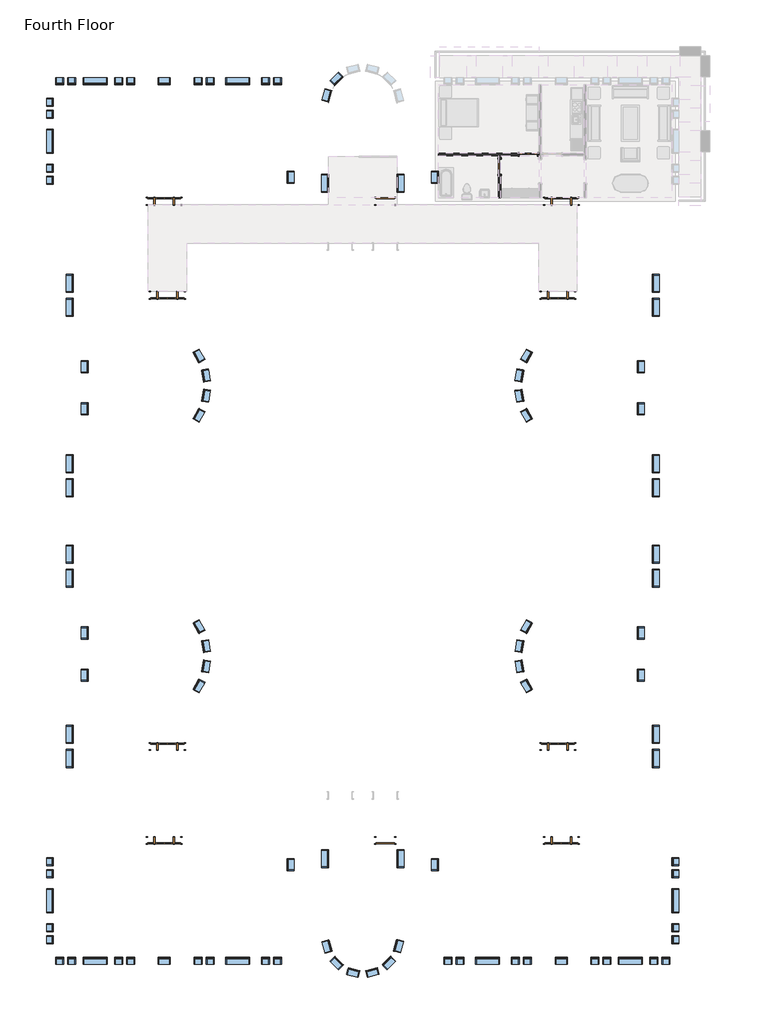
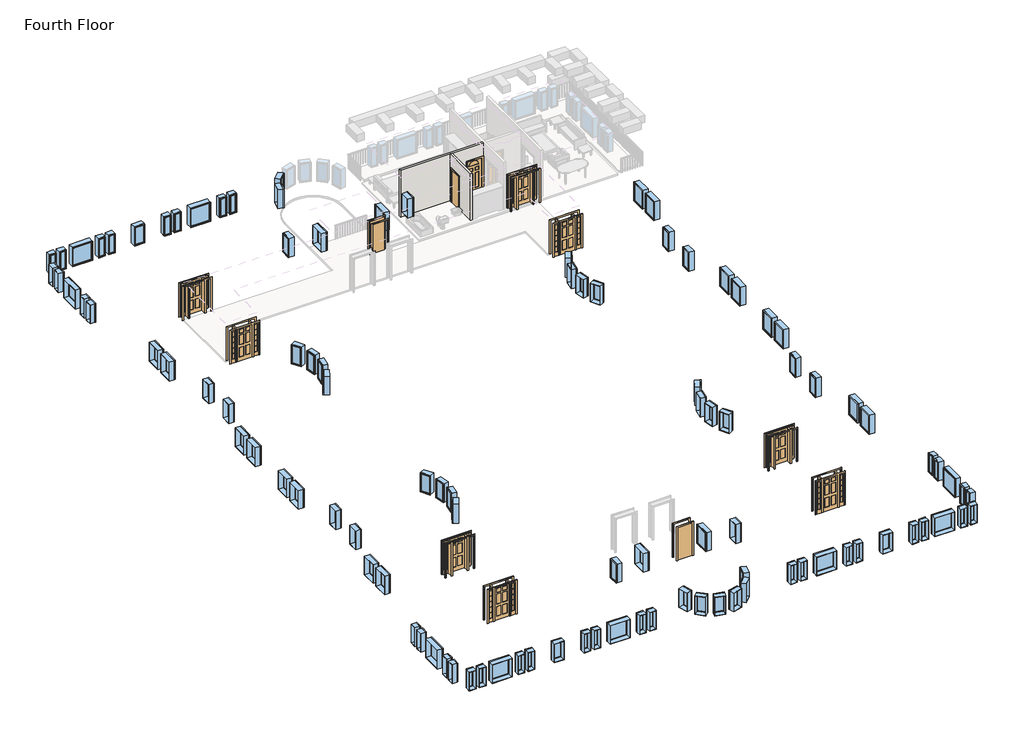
# One storey, part 1 of 2: 104 windows, 12 doors, 2 walls.
"""IFC4 building model written with IfcOpenShell, lengths in millimetres."""

from ifc_helpers import new_model, si_unit, frame, origin, place, context, project, spatial, polyline, outline, extrude, faceted_brep, transform, mapped, element, save
from components import door_2e3b4da2, door_4d6c7550, door_632be17d, door_cc5399a4, door_dba5aa2e, door_ffdb1193, window_da97879f, window_d61ef850, window_60baf983, window_ed80354a, window_15c49d37, window_0e2fc6ce, window_6eb97611, window_d89bf842

model = new_model("IFC4")

# Units and contexts
model_context = context("Model", 3, world=origin())
ifc_project = project(units=[si_unit("LENGTHUNIT", "METRE", prefix="MILLI")], contexts=[model_context])

# Site, building, storey
site = spatial("IfcSite", under=ifc_project)
building = spatial("IfcBuilding", under=site)
storey = spatial("IfcBuildingStorey", under=building, Name="Fourth Floor", Elevation=9144.0)

# Doors
placement = place(None, origin())
door_shape = door_2e3b4da2(model_context)
element("IfcDoor", 1, ObjectType="Single-Decorative 2 : 36\" x 84\"", at=placement, inside=storey, context=model_context, shape_type="MappedRepresentation", body=[
    mapped(door_shape, transform((-6669.0589563, 6723.5441867, 9144.0), x_axis=(1.0, 0.0, 0.0), y_axis=(0.0, 1.0, 0.0), z_axis=(0.0, 0.0, 1.0))),
])
door_2_shape = door_4d6c7550(model_context)
element("IfcDoor", 2, ObjectType="Single-Flush : 30\" x 84\"", at=placement, inside=storey, context=model_context, shape_type="MappedRepresentation", body=[
    mapped(door_2_shape, transform((-8105.7464563, 6113.9441867, 9144.0), x_axis=(0.0, 1.0, 0.0), y_axis=(-1.0, 0.0, 0.0), z_axis=(0.0, 0.0, 1.0))),
])
door_3_shape = door_632be17d(model_context)
element("IfcDoor", 3, ObjectType="Single-Flush : 36\" x 84\"", at=placement, inside=storey, context=model_context, shape_type="MappedRepresentation", body=[
    mapped(door_3_shape, transform((-13919.1714563, 4350.2316867, 9144.0), x_axis=(1.0, 0.0, 0.0), y_axis=(0.0, 1.0, 0.0), z_axis=(0.0, 0.0, 1.0))),
])
door_4_shape = door_cc5399a4(model_context)
element("IfcDoor", 4, ObjectType="Single-Flush : 36\" x 84\"", at=placement, inside=storey, context=model_context, shape_type="MappedRepresentation", body=[
    mapped(door_4_shape, transform((-13919.1714563, -28041.1183133, 9144.0), x_axis=(1.0, 0.0, 0.0), y_axis=(0.0, 1.0, 0.0), z_axis=(0.0, 0.0, 1.0))),
])
door_5_shape = door_dba5aa2e(model_context)
element("IfcDoor", 5, ObjectType="Single-Raised Panel with Sidelights : 36\" x 84\"", at=placement, inside=storey, context=model_context, shape_type="MappedRepresentation", body=[
    mapped(door_5_shape, transform((-4992.6589563, 4350.2316867, 9144.0), x_axis=(-1.0, 0.0, 0.0), y_axis=(0.0, -1.0, 0.0), z_axis=(0.0, 0.0, 1.0))),
])
element("IfcDoor", 6, ObjectType="Single-Raised Panel with Sidelights : 36\" x 84\"", at=placement, inside=storey, context=model_context, shape_type="MappedRepresentation", body=[
    mapped(door_5_shape, transform((-24968.1714563, -415.4433133, 9144.0), x_axis=(1.0, 0.0, 0.0), y_axis=(0.0, 1.0, 0.0), z_axis=(0.0, 0.0, 1.0))),
])
element("IfcDoor", 7, ObjectType="Single-Raised Panel with Sidelights : 36\" x 84\"", at=placement, inside=storey, context=model_context, shape_type="MappedRepresentation", body=[
    mapped(door_5_shape, transform((-5156.1714563, -23275.4433133, 9144.0), x_axis=(-1.0, 0.0, 0.0), y_axis=(0.0, -1.0, 0.0), z_axis=(0.0, 0.0, 1.0))),
])
element("IfcDoor", 8, ObjectType="Single-Raised Panel with Sidelights : 36\" x 84\"", at=placement, inside=storey, context=model_context, shape_type="MappedRepresentation", body=[
    mapped(door_5_shape, transform((-25131.6839563, -28041.1183133, 9144.0), x_axis=(1.0, 0.0, 0.0), y_axis=(0.0, 1.0, 0.0), z_axis=(0.0, 0.0, 1.0))),
])
door_6_shape = door_ffdb1193(model_context)
element("IfcDoor", 9, ObjectType="Single-Raised Panel with Sidelights : 36\" x 84\"", at=placement, inside=storey, context=model_context, shape_type="MappedRepresentation", body=[
    mapped(door_6_shape, transform((-5156.1714563, -415.4433133, 9144.0), x_axis=(-1.0, 0.0, 0.0), y_axis=(0.0, -1.0, 0.0), z_axis=(0.0, 0.0, 1.0))),
])
element("IfcDoor", 10, ObjectType="Single-Raised Panel with Sidelights : 36\" x 84\"", at=placement, inside=storey, context=model_context, shape_type="MappedRepresentation", body=[
    mapped(door_6_shape, transform((-25131.6839563, 4350.2316867, 9144.0), x_axis=(1.0, 0.0, 0.0), y_axis=(0.0, 1.0, 0.0), z_axis=(0.0, 0.0, 1.0))),
])
element("IfcDoor", 11, ObjectType="Single-Raised Panel with Sidelights : 36\" x 84\"", at=placement, inside=storey, context=model_context, shape_type="MappedRepresentation", body=[
    mapped(door_6_shape, transform((-4992.6589563, -28041.1183133, 9144.0), x_axis=(-1.0, 0.0, 0.0), y_axis=(0.0, -1.0, 0.0), z_axis=(0.0, 0.0, 1.0))),
])
element("IfcDoor", 12, ObjectType="Single-Raised Panel with Sidelights : 36\" x 84\"", at=placement, inside=storey, context=model_context, shape_type="MappedRepresentation", body=[
    mapped(door_6_shape, transform((-24968.1714563, -23275.4433133, 9144.0), x_axis=(1.0, 0.0, 0.0), y_axis=(0.0, 1.0, 0.0), z_axis=(0.0, 0.0, 1.0))),
])

# Walls
element("IfcWall", 13, ObjectType="Interior - 5\" Partition (2-hr)", at=placement, inside=storey, context=model_context, shape_type="Brep", body=[
    faceted_brep([(-6211.8589563, 6660.0441867, 11277.6), (-6211.8589563, 6660.0441867, 9144.0), (-6122.9589563, 6660.0441867, 9144.0), (-6122.9589563, 6660.0441867, 12192.0), (-8042.2464563, 6660.0441867, 12192.0), (-8169.2464563, 6660.0441867, 12192.0), (-11217.2464563, 6660.0441867, 12192.0), (-11217.2464563, 6660.0441867, 9144.0), (-8169.2464563, 6660.0441867, 9144.0), (-8042.2464563, 6660.0441867, 9144.0), (-7126.2589563, 6660.0441867, 9144.0), (-7126.2589563, 6660.0441867, 11277.6), (-6122.9589563, 6787.0441867, 9144.0), (-6211.8589563, 6787.0441867, 9144.0), (-6211.8589563, 6787.0441867, 11277.6), (-7126.2589563, 6787.0441867, 11277.6), (-7126.2589563, 6787.0441867, 9144.0), (-11217.2464563, 6787.0441867, 9144.0), (-11217.2464563, 6787.0441867, 12192.0), (-6122.9589563, 6787.0441867, 12192.0)], [[[0, 1, 2, 3, 4, 5, 6, 7, 8, 9, 10, 11]], [[12, 13, 14, 15, 16, 17, 18, 19]], [[2, 1, 13, 12]], [[10, 9, 8, 7, 17, 16]], [[6, 5, 4, 3, 19, 18]], [[3, 2, 12, 19]], [[7, 6, 18, 17]], [[14, 13, 1, 0]], [[15, 14, 0, 11]], [[16, 15, 11, 10]]]),
])
element("IfcWall", 14, ObjectType="Interior - 5\" Partition (2-hr)", at=placement, inside=storey, context=model_context, shape_type="SweptSolid", body=[
    extrude(outline(polyline([(6660.0441867, 9144.0), (6494.9441867, 9144.0), (6494.9441867, 11277.6), (5732.9441867, 11277.6), (5732.9441867, 9144.0), (4526.4441867, 9144.0), (4526.4441867, 12192.0), (6660.0441867, 12192.0), (6660.0441867, 9144.0)])), frame((-8169.2464563, 0.0, 0.0), z_axis=(1.0, 0.0, 0.0), x_axis=(0.0, 1.0, 0.0)), (0.0, 0.0, 1.0), 127.0),
])

# Windows
window_shape = window_da97879f(model_context)
element("IfcWindow", 15, ObjectType="Fixed : 16\" x 48\"", at=placement, inside=storey, context=model_context, shape_type="MappedRepresentation", body=[
    mapped(window_shape, transform((-23442.5839563, 10446.2316867, 9144.0), x_axis=(-1.0, 0.0, 0.0), y_axis=(0.0, -1.0, 0.0), z_axis=(0.0, 0.0, 1.0))),
])
element("IfcWindow", 16, ObjectType="Fixed : 16\" x 48\"", at=placement, inside=storey, context=model_context, shape_type="MappedRepresentation", body=[
    mapped(window_shape, transform((-22832.9839563, 10446.2316867, 9144.0), x_axis=(-1.0, 0.0, 0.0), y_axis=(0.0, -1.0, 0.0), z_axis=(0.0, 0.0, 1.0))),
])
element("IfcWindow", 17, ObjectType="Fixed : 16\" x 48\"", at=placement, inside=storey, context=model_context, shape_type="MappedRepresentation", body=[
    mapped(window_shape, transform((-30478.3839563, 10446.2316867, 9144.0), x_axis=(-1.0, 0.0, 0.0), y_axis=(0.0, -1.0, 0.0), z_axis=(0.0, 0.0, 1.0))),
])
element("IfcWindow", 18, ObjectType="Fixed : 16\" x 48\"", at=placement, inside=storey, context=model_context, shape_type="MappedRepresentation", body=[
    mapped(window_shape, transform((-29868.7839563, 10446.2316867, 9144.0), x_axis=(-1.0, 0.0, 0.0), y_axis=(0.0, -1.0, 0.0), z_axis=(0.0, 0.0, 1.0))),
])
element("IfcWindow", 19, ObjectType="Fixed : 16\" x 48\"", at=placement, inside=storey, context=model_context, shape_type="MappedRepresentation", body=[
    mapped(window_shape, transform((-30922.8839563, 5378.9316867, 9144.0), x_axis=(0.0, -1.0, 0.0), y_axis=(1.0, 0.0, 0.0), z_axis=(0.0, 0.0, 1.0))),
])
element("IfcWindow", 20, ObjectType="Fixed : 16\" x 48\"", at=placement, inside=storey, context=model_context, shape_type="MappedRepresentation", body=[
    mapped(window_shape, transform((-30922.8839563, 5988.5316867, 9144.0), x_axis=(0.0, -1.0, 0.0), y_axis=(1.0, 0.0, 0.0), z_axis=(0.0, 0.0, 1.0))),
])
element("IfcWindow", 21, ObjectType="Fixed : 16\" x 48\"", at=placement, inside=storey, context=model_context, shape_type="MappedRepresentation", body=[
    mapped(window_shape, transform((-6681.7589563, -34137.1183133, 9144.0), x_axis=(1.0, 0.0, 0.0), y_axis=(0.0, 1.0, 0.0), z_axis=(0.0, 0.0, 1.0))),
])
element("IfcWindow", 22, ObjectType="Fixed : 16\" x 48\"", at=placement, inside=storey, context=model_context, shape_type="MappedRepresentation", body=[
    mapped(window_shape, transform((-7291.3589563, -34137.1183133, 9144.0), x_axis=(1.0, 0.0, 0.0), y_axis=(0.0, 1.0, 0.0), z_axis=(0.0, 0.0, 1.0))),
])
element("IfcWindow", 23, ObjectType="Fixed : 16\" x 48\"", at=placement, inside=storey, context=model_context, shape_type="MappedRepresentation", body=[
    mapped(window_shape, transform((354.0410437, -34137.1183133, 9144.0), x_axis=(1.0, 0.0, 0.0), y_axis=(0.0, 1.0, 0.0), z_axis=(0.0, 0.0, 1.0))),
])
element("IfcWindow", 24, ObjectType="Fixed : 16\" x 48\"", at=placement, inside=storey, context=model_context, shape_type="MappedRepresentation", body=[
    mapped(window_shape, transform((-255.5589563, -34137.1183133, 9144.0), x_axis=(1.0, 0.0, 0.0), y_axis=(0.0, 1.0, 0.0), z_axis=(0.0, 0.0, 1.0))),
])
element("IfcWindow", 25, ObjectType="Fixed : 16\" x 48\"", at=placement, inside=storey, context=model_context, shape_type="MappedRepresentation", body=[
    mapped(window_shape, transform((798.5410437, -29069.8183133, 9144.0), x_axis=(0.0, 1.0, 0.0), y_axis=(-1.0, 0.0, 0.0), z_axis=(0.0, 0.0, 1.0))),
])
element("IfcWindow", 26, ObjectType="Fixed : 16\" x 48\"", at=placement, inside=storey, context=model_context, shape_type="MappedRepresentation", body=[
    mapped(window_shape, transform((798.5410437, -29679.4183133, 9144.0), x_axis=(0.0, 1.0, 0.0), y_axis=(-1.0, 0.0, 0.0), z_axis=(0.0, 0.0, 1.0))),
])
element("IfcWindow", 27, ObjectType="Fixed : 16\" x 48\"", at=placement, inside=storey, context=model_context, shape_type="MappedRepresentation", body=[
    mapped(window_shape, transform((-19353.1839563, -34137.1183133, 9144.0), x_axis=(1.0, 0.0, 0.0), y_axis=(0.0, 1.0, 0.0), z_axis=(0.0, 0.0, 1.0))),
])
element("IfcWindow", 28, ObjectType="Fixed : 16\" x 48\"", at=placement, inside=storey, context=model_context, shape_type="MappedRepresentation", body=[
    mapped(window_shape, transform((-19962.7839563, -34137.1183133, 9144.0), x_axis=(1.0, 0.0, 0.0), y_axis=(0.0, 1.0, 0.0), z_axis=(0.0, 0.0, 1.0))),
])
element("IfcWindow", 29, ObjectType="Fixed : 16\" x 48\"", at=placement, inside=storey, context=model_context, shape_type="MappedRepresentation", body=[
    mapped(window_shape, transform((-26795.3839563, -34137.1183133, 9144.0), x_axis=(1.0, 0.0, 0.0), y_axis=(0.0, 1.0, 0.0), z_axis=(0.0, 0.0, 1.0))),
])
element("IfcWindow", 30, ObjectType="Fixed : 16\" x 48\"", at=placement, inside=storey, context=model_context, shape_type="MappedRepresentation", body=[
    mapped(window_shape, transform((-27404.9839563, -34137.1183133, 9144.0), x_axis=(1.0, 0.0, 0.0), y_axis=(0.0, 1.0, 0.0), z_axis=(0.0, 0.0, 1.0))),
])
element("IfcWindow", 31, ObjectType="Fixed : 16\" x 48\"", at=placement, inside=storey, context=model_context, shape_type="MappedRepresentation", body=[
    mapped(window_shape, transform((-30922.8839563, -33108.4183133, 9144.0), x_axis=(0.0, -1.0, 0.0), y_axis=(1.0, 0.0, 0.0), z_axis=(0.0, 0.0, 1.0))),
])
element("IfcWindow", 32, ObjectType="Fixed : 16\" x 48\"", at=placement, inside=storey, context=model_context, shape_type="MappedRepresentation", body=[
    mapped(window_shape, transform((-30922.8839563, -32498.8183133, 9144.0), x_axis=(0.0, -1.0, 0.0), y_axis=(1.0, 0.0, 0.0), z_axis=(0.0, 0.0, 1.0))),
])
window_2_shape = window_d61ef850(model_context)
element("IfcWindow", 33, ObjectType="Fixed : 16\" x 48\"", at=placement, inside=storey, context=model_context, shape_type="MappedRepresentation", body=[
    mapped(window_2_shape, transform((-19353.1839563, 10446.2316867, 9144.0), x_axis=(1.0, 0.0, 0.0), y_axis=(0.0, 1.0, 0.0), z_axis=(0.0, 0.0, 1.0))),
])
element("IfcWindow", 34, ObjectType="Fixed : 16\" x 48\"", at=placement, inside=storey, context=model_context, shape_type="MappedRepresentation", body=[
    mapped(window_2_shape, transform((-19962.7839563, 10446.2316867, 9144.0), x_axis=(1.0, 0.0, 0.0), y_axis=(0.0, 1.0, 0.0), z_axis=(0.0, 0.0, 1.0))),
])
element("IfcWindow", 35, ObjectType="Fixed : 16\" x 48\"", at=placement, inside=storey, context=model_context, shape_type="MappedRepresentation", body=[
    mapped(window_2_shape, transform((-26795.3839563, 10446.2316867, 9144.0), x_axis=(1.0, 0.0, 0.0), y_axis=(0.0, 1.0, 0.0), z_axis=(0.0, 0.0, 1.0))),
])
element("IfcWindow", 36, ObjectType="Fixed : 16\" x 48\"", at=placement, inside=storey, context=model_context, shape_type="MappedRepresentation", body=[
    mapped(window_2_shape, transform((-27404.9839563, 10446.2316867, 9144.0), x_axis=(1.0, 0.0, 0.0), y_axis=(0.0, 1.0, 0.0), z_axis=(0.0, 0.0, 1.0))),
])
element("IfcWindow", 37, ObjectType="Fixed : 16\" x 48\"", at=placement, inside=storey, context=model_context, shape_type="MappedRepresentation", body=[
    mapped(window_2_shape, transform((-30922.8839563, 9417.5316867, 9144.0), x_axis=(0.0, 1.0, 0.0), y_axis=(-1.0, 0.0, 0.0), z_axis=(0.0, 0.0, 1.0))),
])
element("IfcWindow", 38, ObjectType="Fixed : 16\" x 48\"", at=placement, inside=storey, context=model_context, shape_type="MappedRepresentation", body=[
    mapped(window_2_shape, transform((-30922.8839563, 8807.9316867, 9144.0), x_axis=(0.0, 1.0, 0.0), y_axis=(-1.0, 0.0, 0.0), z_axis=(0.0, 0.0, 1.0))),
])
element("IfcWindow", 39, ObjectType="Fixed : 16\" x 48\"", at=placement, inside=storey, context=model_context, shape_type="MappedRepresentation", body=[
    mapped(window_2_shape, transform((-10771.1589563, -34137.1183133, 9144.0), x_axis=(-1.0, 0.0, 0.0), y_axis=(0.0, -1.0, 0.0), z_axis=(0.0, 0.0, 1.0))),
])
element("IfcWindow", 40, ObjectType="Fixed : 16\" x 48\"", at=placement, inside=storey, context=model_context, shape_type="MappedRepresentation", body=[
    mapped(window_2_shape, transform((-10161.5589563, -34137.1183133, 9144.0), x_axis=(-1.0, 0.0, 0.0), y_axis=(0.0, -1.0, 0.0), z_axis=(0.0, 0.0, 1.0))),
])
element("IfcWindow", 41, ObjectType="Fixed : 16\" x 48\"", at=placement, inside=storey, context=model_context, shape_type="MappedRepresentation", body=[
    mapped(window_2_shape, transform((-3328.9589563, -34137.1183133, 9144.0), x_axis=(-1.0, 0.0, 0.0), y_axis=(0.0, -1.0, 0.0), z_axis=(0.0, 0.0, 1.0))),
])
element("IfcWindow", 42, ObjectType="Fixed : 16\" x 48\"", at=placement, inside=storey, context=model_context, shape_type="MappedRepresentation", body=[
    mapped(window_2_shape, transform((-2719.3589563, -34137.1183133, 9144.0), x_axis=(-1.0, 0.0, 0.0), y_axis=(0.0, -1.0, 0.0), z_axis=(0.0, 0.0, 1.0))),
])
element("IfcWindow", 43, ObjectType="Fixed : 16\" x 48\"", at=placement, inside=storey, context=model_context, shape_type="MappedRepresentation", body=[
    mapped(window_2_shape, transform((798.5410437, -33108.4183133, 9144.0), x_axis=(0.0, -1.0, 0.0), y_axis=(1.0, 0.0, 0.0), z_axis=(0.0, 0.0, 1.0))),
])
element("IfcWindow", 44, ObjectType="Fixed : 16\" x 48\"", at=placement, inside=storey, context=model_context, shape_type="MappedRepresentation", body=[
    mapped(window_2_shape, transform((798.5410437, -32498.8183133, 9144.0), x_axis=(0.0, -1.0, 0.0), y_axis=(1.0, 0.0, 0.0), z_axis=(0.0, 0.0, 1.0))),
])
element("IfcWindow", 45, ObjectType="Fixed : 16\" x 48\"", at=placement, inside=storey, context=model_context, shape_type="MappedRepresentation", body=[
    mapped(window_2_shape, transform((-23442.5839563, -34137.1183133, 9144.0), x_axis=(-1.0, 0.0, 0.0), y_axis=(0.0, -1.0, 0.0), z_axis=(0.0, 0.0, 1.0))),
])
element("IfcWindow", 46, ObjectType="Fixed : 16\" x 48\"", at=placement, inside=storey, context=model_context, shape_type="MappedRepresentation", body=[
    mapped(window_2_shape, transform((-22832.9839563, -34137.1183133, 9144.0), x_axis=(-1.0, 0.0, 0.0), y_axis=(0.0, -1.0, 0.0), z_axis=(0.0, 0.0, 1.0))),
])
element("IfcWindow", 47, ObjectType="Fixed : 16\" x 48\"", at=placement, inside=storey, context=model_context, shape_type="MappedRepresentation", body=[
    mapped(window_2_shape, transform((-30478.3839563, -34137.1183133, 9144.0), x_axis=(-1.0, 0.0, 0.0), y_axis=(0.0, -1.0, 0.0), z_axis=(0.0, 0.0, 1.0))),
])
element("IfcWindow", 48, ObjectType="Fixed : 16\" x 48\"", at=placement, inside=storey, context=model_context, shape_type="MappedRepresentation", body=[
    mapped(window_2_shape, transform((-29868.7839563, -34137.1183133, 9144.0), x_axis=(-1.0, 0.0, 0.0), y_axis=(0.0, -1.0, 0.0), z_axis=(0.0, 0.0, 1.0))),
])
element("IfcWindow", 49, ObjectType="Fixed : 16\" x 48\"", at=placement, inside=storey, context=model_context, shape_type="MappedRepresentation", body=[
    mapped(window_2_shape, transform((-30922.8839563, -29069.8183133, 9144.0), x_axis=(0.0, 1.0, 0.0), y_axis=(-1.0, 0.0, 0.0), z_axis=(0.0, 0.0, 1.0))),
])
element("IfcWindow", 50, ObjectType="Fixed : 16\" x 48\"", at=placement, inside=storey, context=model_context, shape_type="MappedRepresentation", body=[
    mapped(window_2_shape, transform((-30922.8839563, -29679.4183133, 9144.0), x_axis=(0.0, 1.0, 0.0), y_axis=(-1.0, 0.0, 0.0), z_axis=(0.0, 0.0, 1.0))),
])
window_3_shape = window_60baf983(model_context)
element("IfcWindow", 51, ObjectType="Fixed : 24\" x 48\"", at=placement, inside=storey, context=model_context, shape_type="MappedRepresentation", body=[
    mapped(window_3_shape, transform((-11393.4589563, 5531.3316867, 9144.0), x_axis=(0.0, -1.0, 0.0), y_axis=(1.0, 0.0, 0.0), z_axis=(0.0, 0.0, 1.0))),
])
element("IfcWindow", 52, ObjectType="Fixed : 24\" x 48\"", at=placement, inside=storey, context=model_context, shape_type="MappedRepresentation", body=[
    mapped(window_3_shape, transform((-16889.064163, 9683.0417496, 9144.0), x_axis=(-0.26176149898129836, -0.9651325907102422, 0.0), y_axis=(0.9651325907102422, -0.26176149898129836, 0.0), z_axis=(0.0, 0.0, 1.0))),
])
element("IfcWindow", 53, ObjectType="Fixed : 24\" x 48\"", at=placement, inside=storey, context=model_context, shape_type="MappedRepresentation", body=[
    mapped(window_3_shape, transform((-16416.3019188, 10535.3943388, 9144.0), x_axis=(-0.7092584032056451, -0.7049485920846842, 0.0), y_axis=(0.7049485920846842, -0.7092584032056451, 0.0), z_axis=(0.0, 0.0, 1.0))),
])
element("IfcWindow", 54, ObjectType="Fixed : 24\" x 48\"", at=placement, inside=storey, context=model_context, shape_type="MappedRepresentation", body=[
    mapped(window_3_shape, transform((-6775.1467215, -3515.2965337, 9144.0), x_axis=(-0.49619108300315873, -0.8682133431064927, 0.0), y_axis=(0.8682133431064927, -0.49619108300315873, 0.0), z_axis=(0.0, 0.0, 1.0))),
])
element("IfcWindow", 55, ObjectType="Fixed : 24\" x 48\"", at=placement, inside=storey, context=model_context, shape_type="MappedRepresentation", body=[
    mapped(window_3_shape, transform((-7118.4751134, -4510.097297, 9144.0), x_axis=(-0.16973229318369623, -0.9854902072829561, 0.0), y_axis=(0.9854902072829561, -0.16973229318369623, 0.0), z_axis=(0.0, 0.0, 1.0))),
])
element("IfcWindow", 56, ObjectType="Fixed : 24\" x 48\"", at=placement, inside=storey, context=model_context, shape_type="MappedRepresentation", body=[
    mapped(window_3_shape, transform((-29159.1714563, -4071.4558133, 9144.0), x_axis=(0.0, -1.0, 0.0), y_axis=(1.0, 0.0, 0.0), z_axis=(0.0, 0.0, 1.0))),
])
element("IfcWindow", 57, ObjectType="Fixed : 24\" x 48\"", at=placement, inside=storey, context=model_context, shape_type="MappedRepresentation", body=[
    mapped(window_3_shape, transform((-29159.1714563, -6205.0558133, 9144.0), x_axis=(0.0, -1.0, 0.0), y_axis=(1.0, 0.0, 0.0), z_axis=(0.0, 0.0, 1.0))),
])
element("IfcWindow", 58, ObjectType="Fixed : 24\" x 48\"", at=placement, inside=storey, context=model_context, shape_type="MappedRepresentation", body=[
    mapped(window_3_shape, transform((-23350.7429238, -6458.7061225, 9144.0), x_axis=(0.49619108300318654, 0.8682133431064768, 0.0), y_axis=(-0.8682133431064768, 0.49619108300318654, 0.0), z_axis=(0.0, 0.0, 1.0))),
])
element("IfcWindow", 59, ObjectType="Fixed : 24\" x 48\"", at=placement, inside=storey, context=model_context, shape_type="MappedRepresentation", body=[
    mapped(window_3_shape, transform((-23007.6234621, -5464.4869495, 9144.0), x_axis=(0.16973229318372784, 0.9854902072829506, 0.0), y_axis=(-0.9854902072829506, 0.16973229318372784, 0.0), z_axis=(0.0, 0.0, 1.0))),
])
element("IfcWindow", 60, ObjectType="Fixed : 24\" x 48\"", at=placement, inside=storey, context=model_context, shape_type="MappedRepresentation", body=[
    mapped(window_3_shape, transform((-965.1714563, -19619.4308133, 9144.0), x_axis=(0.0, 1.0, 0.0), y_axis=(-1.0, 0.0, 0.0), z_axis=(0.0, 0.0, 1.0))),
])
element("IfcWindow", 61, ObjectType="Fixed : 24\" x 48\"", at=placement, inside=storey, context=model_context, shape_type="MappedRepresentation", body=[
    mapped(window_3_shape, transform((-965.1714563, -17485.8308133, 9144.0), x_axis=(0.0, 1.0, 0.0), y_axis=(-1.0, 0.0, 0.0), z_axis=(0.0, 0.0, 1.0))),
])
element("IfcWindow", 62, ObjectType="Fixed : 24\" x 48\"", at=placement, inside=storey, context=model_context, shape_type="MappedRepresentation", body=[
    mapped(window_3_shape, transform((-6773.5999888, -17232.1805042, 9144.0), x_axis=(-0.49619108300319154, -0.8682133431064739, 0.0), y_axis=(0.8682133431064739, -0.49619108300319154, 0.0), z_axis=(0.0, 0.0, 1.0))),
])
element("IfcWindow", 63, ObjectType="Fixed : 24\" x 48\"", at=placement, inside=storey, context=model_context, shape_type="MappedRepresentation", body=[
    mapped(window_3_shape, transform((-7116.7194505, -18226.3996771, 9144.0), x_axis=(-0.16973229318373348, -0.9854902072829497, 0.0), y_axis=(0.9854902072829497, -0.16973229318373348, 0.0), z_axis=(0.0, 0.0, 1.0))),
])
element("IfcWindow", 64, ObjectType="Fixed : 24\" x 48\"", at=placement, inside=storey, context=model_context, shape_type="MappedRepresentation", body=[
    mapped(window_3_shape, transform((-25093.5839563, -34137.1183133, 9144.0), x_axis=(1.0, 0.0, 0.0), y_axis=(0.0, 1.0, 0.0), z_axis=(0.0, 0.0, 1.0))),
])
element("IfcWindow", 65, ObjectType="Fixed : 24\" x 48\"", at=placement, inside=storey, context=model_context, shape_type="MappedRepresentation", body=[
    mapped(window_3_shape, transform((-18730.8839563, -29222.2183133, 9144.0), x_axis=(0.0, 1.0, 0.0), y_axis=(-1.0, 0.0, 0.0), z_axis=(0.0, 0.0, 1.0))),
])
element("IfcWindow", 66, ObjectType="Fixed : 24\" x 48\"", at=placement, inside=storey, context=model_context, shape_type="MappedRepresentation", body=[
    mapped(window_3_shape, transform((-23349.1961911, -20175.5900929, 9144.0), x_axis=(0.4961910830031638, 0.8682133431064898, 0.0), y_axis=(-0.8682133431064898, 0.4961910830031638, 0.0), z_axis=(0.0, 0.0, 1.0))),
])
element("IfcWindow", 67, ObjectType="Fixed : 24\" x 48\"", at=placement, inside=storey, context=model_context, shape_type="MappedRepresentation", body=[
    mapped(window_3_shape, transform((-23005.8677992, -19180.7893296, 9144.0), x_axis=(0.169732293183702, 0.9854902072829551, 0.0), y_axis=(-0.9854902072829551, 0.169732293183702, 0.0), z_axis=(0.0, 0.0, 1.0))),
])
window_4_shape = window_ed80354a(model_context)
element("IfcWindow", 68, ObjectType="Fixed : 24\" x 48\"", at=placement, inside=storey, context=model_context, shape_type="MappedRepresentation", body=[
    mapped(window_4_shape, transform((-965.1714563, -4071.4558133, 9144.0), x_axis=(0.0, -1.0, 0.0), y_axis=(1.0, 0.0, 0.0), z_axis=(0.0, 0.0, 1.0))),
])
element("IfcWindow", 69, ObjectType="Fixed : 24\" x 48\"", at=placement, inside=storey, context=model_context, shape_type="MappedRepresentation", body=[
    mapped(window_4_shape, transform((-965.1714563, -6205.0558133, 9144.0), x_axis=(0.0, -1.0, 0.0), y_axis=(1.0, 0.0, 0.0), z_axis=(0.0, 0.0, 1.0))),
])
element("IfcWindow", 70, ObjectType="Fixed : 24\" x 48\"", at=placement, inside=storey, context=model_context, shape_type="MappedRepresentation", body=[
    mapped(window_4_shape, transform((-6775.1467215, -6459.5900929, 9144.0), x_axis=(-0.49619108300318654, 0.8682133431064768, 0.0), y_axis=(-0.8682133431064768, -0.49619108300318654, 0.0), z_axis=(0.0, 0.0, 1.0))),
])
element("IfcWindow", 71, ObjectType="Fixed : 24\" x 48\"", at=placement, inside=storey, context=model_context, shape_type="MappedRepresentation", body=[
    mapped(window_4_shape, transform((-7118.4751134, -5464.7893296, 9144.0), x_axis=(-0.16973229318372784, 0.9854902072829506, 0.0), y_axis=(-0.9854902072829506, -0.16973229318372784, 0.0), z_axis=(0.0, 0.0, 1.0))),
])
element("IfcWindow", 72, ObjectType="Fixed : 24\" x 48\"", at=placement, inside=storey, context=model_context, shape_type="MappedRepresentation", body=[
    mapped(window_4_shape, transform((-25093.5839563, 10446.2316867, 9144.0), x_axis=(1.0, 0.0, 0.0), y_axis=(0.0, 1.0, 0.0), z_axis=(0.0, 0.0, 1.0))),
])
element("IfcWindow", 73, ObjectType="Fixed : 24\" x 48\"", at=placement, inside=storey, context=model_context, shape_type="MappedRepresentation", body=[
    mapped(window_4_shape, transform((-18730.8839563, 5531.3316867, 9144.0), x_axis=(0.0, -1.0, 0.0), y_axis=(1.0, 0.0, 0.0), z_axis=(0.0, 0.0, 1.0))),
])
element("IfcWindow", 74, ObjectType="Fixed : 24\" x 48\"", at=placement, inside=storey, context=model_context, shape_type="MappedRepresentation", body=[
    mapped(window_4_shape, transform((-23350.7429238, -3516.1805042, 9144.0), x_axis=(0.49619108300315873, -0.8682133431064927, 0.0), y_axis=(0.8682133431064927, 0.49619108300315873, 0.0), z_axis=(0.0, 0.0, 1.0))),
])
element("IfcWindow", 75, ObjectType="Fixed : 24\" x 48\"", at=placement, inside=storey, context=model_context, shape_type="MappedRepresentation", body=[
    mapped(window_4_shape, transform((-23007.6234621, -4510.3996771, 9144.0), x_axis=(0.16973229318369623, -0.9854902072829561, 0.0), y_axis=(0.9854902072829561, 0.16973229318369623, 0.0), z_axis=(0.0, 0.0, 1.0))),
])
element("IfcWindow", 76, ObjectType="Fixed : 24\" x 48\"", at=placement, inside=storey, context=model_context, shape_type="MappedRepresentation", body=[
    mapped(window_4_shape, transform((-5030.7589563, -34137.1183133, 9144.0), x_axis=(-1.0, 0.0, 0.0), y_axis=(0.0, -1.0, 0.0), z_axis=(0.0, 0.0, 1.0))),
])
element("IfcWindow", 77, ObjectType="Fixed : 24\" x 48\"", at=placement, inside=storey, context=model_context, shape_type="MappedRepresentation", body=[
    mapped(window_4_shape, transform((-11393.4589563, -29222.2183133, 9144.0), x_axis=(0.0, 1.0, 0.0), y_axis=(-1.0, 0.0, 0.0), z_axis=(0.0, 0.0, 1.0))),
])
element("IfcWindow", 78, ObjectType="Fixed : 24\" x 48\"", at=placement, inside=storey, context=model_context, shape_type="MappedRepresentation", body=[
    mapped(window_4_shape, transform((-16884.5848795, -33372.7135131, 9144.0), x_axis=(-0.26176149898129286, 0.9651325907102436, 0.0), y_axis=(-0.9651325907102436, -0.26176149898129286, 0.0), z_axis=(0.0, 0.0, 1.0))),
])
element("IfcWindow", 79, ObjectType="Fixed : 24\" x 48\"", at=placement, inside=storey, context=model_context, shape_type="MappedRepresentation", body=[
    mapped(window_4_shape, transform((-16413.0301771, -34222.9892215, 9144.0), x_axis=(-0.7092584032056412, 0.7049485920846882, 0.0), y_axis=(-0.7049485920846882, -0.7092584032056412, 0.0), z_axis=(0.0, 0.0, 1.0))),
])
element("IfcWindow", 80, ObjectType="Fixed : 24\" x 48\"", at=placement, inside=storey, context=model_context, shape_type="MappedRepresentation", body=[
    mapped(window_4_shape, transform((-15579.5139714, -34723.5722339, 9144.0), x_axis=(-0.966710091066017, 0.2558741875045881, 0.0), y_axis=(-0.2558741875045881, -0.966710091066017, 0.0), z_axis=(0.0, 0.0, 1.0))),
])
element("IfcWindow", 81, ObjectType="Fixed : 24\" x 48\"", at=placement, inside=storey, context=model_context, shape_type="MappedRepresentation", body=[
    mapped(window_4_shape, transform((-14607.3762565, -34740.3317365, 9144.0), x_axis=(-0.9651325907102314, -0.2617614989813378, 0.0), y_axis=(0.2617614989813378, -0.9651325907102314, 0.0), z_axis=(0.0, 0.0, 1.0))),
])
element("IfcWindow", 82, ObjectType="Fixed : 24\" x 48\"", at=placement, inside=storey, context=model_context, shape_type="MappedRepresentation", body=[
    mapped(window_4_shape, transform((-13757.1005482, -34268.7770341, 9144.0), x_axis=(-0.7049485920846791, -0.7092584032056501, 0.0), y_axis=(0.7092584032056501, -0.7049485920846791, 0.0), z_axis=(0.0, 0.0, 1.0))),
])
element("IfcWindow", 83, ObjectType="Fixed : 24\" x 48\"", at=placement, inside=storey, context=model_context, shape_type="MappedRepresentation", body=[
    mapped(window_4_shape, transform((-13256.5175357, -33435.2608284, 9144.0), x_axis=(-0.25587418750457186, -0.9667100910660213, 0.0), y_axis=(0.9667100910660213, -0.25587418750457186, 0.0), z_axis=(0.0, 0.0, 1.0))),
])
element("IfcWindow", 84, ObjectType="Fixed : 24\" x 48\"", at=placement, inside=storey, context=model_context, shape_type="MappedRepresentation", body=[
    mapped(window_4_shape, transform((-6773.5999888, -20174.7061225, 9144.0), x_axis=(-0.49619108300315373, 0.8682133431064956, 0.0), y_axis=(-0.8682133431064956, -0.49619108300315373, 0.0), z_axis=(0.0, 0.0, 1.0))),
])
element("IfcWindow", 85, ObjectType="Fixed : 24\" x 48\"", at=placement, inside=storey, context=model_context, shape_type="MappedRepresentation", body=[
    mapped(window_4_shape, transform((-7116.7194505, -19180.4869495, 9144.0), x_axis=(-0.1697322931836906, 0.985490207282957, 0.0), y_axis=(-0.985490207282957, -0.1697322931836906, 0.0), z_axis=(0.0, 0.0, 1.0))),
])
element("IfcWindow", 86, ObjectType="Fixed : 24\" x 48\"", at=placement, inside=storey, context=model_context, shape_type="MappedRepresentation", body=[
    mapped(window_4_shape, transform((-29159.1714563, -19619.4308133, 9144.0), x_axis=(0.0, 1.0, 0.0), y_axis=(-1.0, 0.0, 0.0), z_axis=(0.0, 0.0, 1.0))),
])
element("IfcWindow", 87, ObjectType="Fixed : 24\" x 48\"", at=placement, inside=storey, context=model_context, shape_type="MappedRepresentation", body=[
    mapped(window_4_shape, transform((-29159.1714563, -17485.8308133, 9144.0), x_axis=(0.0, 1.0, 0.0), y_axis=(-1.0, 0.0, 0.0), z_axis=(0.0, 0.0, 1.0))),
])
element("IfcWindow", 88, ObjectType="Fixed : 24\" x 48\"", at=placement, inside=storey, context=model_context, shape_type="MappedRepresentation", body=[
    mapped(window_4_shape, transform((-23349.1961911, -17231.2965337, 9144.0), x_axis=(0.4961910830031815, -0.8682133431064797, 0.0), y_axis=(0.8682133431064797, 0.4961910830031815, 0.0), z_axis=(0.0, 0.0, 1.0))),
])
element("IfcWindow", 89, ObjectType="Fixed : 24\" x 48\"", at=placement, inside=storey, context=model_context, shape_type="MappedRepresentation", body=[
    mapped(window_4_shape, transform((-23005.8677992, -18226.097297, 9144.0), x_axis=(0.16973229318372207, -0.9854902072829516, 0.0), y_axis=(0.9854902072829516, 0.16973229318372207, 0.0), z_axis=(0.0, 0.0, 1.0))),
])
window_5_shape = window_15c49d37(model_context)
element("IfcWindow", 90, ObjectType="Fixed : 36\" x 48\"", at=placement, inside=storey, context=model_context, shape_type="MappedRepresentation", body=[
    mapped(window_5_shape, transform((-16967.1714563, 5226.5316867, 9144.0), x_axis=(0.0, -1.0, 0.0), y_axis=(1.0, 0.0, 0.0), z_axis=(0.0, 0.0, 1.0))),
])
element("IfcWindow", 91, ObjectType="Fixed : 36\" x 48\"", at=placement, inside=storey, context=model_context, shape_type="MappedRepresentation", body=[
    mapped(window_5_shape, transform((-13157.1714563, 5302.7316867, 9144.0), x_axis=(0.0, 1.0, 0.0), y_axis=(-1.0, 0.0, 0.0), z_axis=(0.0, 0.0, 1.0))),
])
element("IfcWindow", 92, ObjectType="Fixed : 36\" x 48\"", at=placement, inside=storey, context=model_context, shape_type="MappedRepresentation", body=[
    mapped(window_5_shape, transform((-29921.1714563, -10207.1433133, 9144.0), x_axis=(0.0, -1.0, 0.0), y_axis=(1.0, 0.0, 0.0), z_axis=(0.0, 0.0, 1.0))),
])
element("IfcWindow", 93, ObjectType="Fixed : 36\" x 48\"", at=placement, inside=storey, context=model_context, shape_type="MappedRepresentation", body=[
    mapped(window_5_shape, transform((-29921.1714563, -8987.9433133, 9144.0), x_axis=(0.0, -1.0, 0.0), y_axis=(1.0, 0.0, 0.0), z_axis=(0.0, 0.0, 1.0))),
])
element("IfcWindow", 94, ObjectType="Fixed : 36\" x 48\"", at=placement, inside=storey, context=model_context, shape_type="MappedRepresentation", body=[
    mapped(window_5_shape, transform((-29921.1714563, 156.0566867, 9144.0), x_axis=(0.0, -1.0, 0.0), y_axis=(1.0, 0.0, 0.0), z_axis=(0.0, 0.0, 1.0))),
])
element("IfcWindow", 95, ObjectType="Fixed : 36\" x 48\"", at=placement, inside=storey, context=model_context, shape_type="MappedRepresentation", body=[
    mapped(window_5_shape, transform((-29921.1714563, -1063.1433133, 9144.0), x_axis=(0.0, -1.0, 0.0), y_axis=(1.0, 0.0, 0.0), z_axis=(0.0, 0.0, 1.0))),
])
element("IfcWindow", 96, ObjectType="Fixed : 36\" x 48\"", at=placement, inside=storey, context=model_context, shape_type="MappedRepresentation", body=[
    mapped(window_5_shape, transform((-203.1714563, -13483.7433133, 9144.0), x_axis=(0.0, 1.0, 0.0), y_axis=(-1.0, 0.0, 0.0), z_axis=(0.0, 0.0, 1.0))),
])
element("IfcWindow", 97, ObjectType="Fixed : 36\" x 48\"", at=placement, inside=storey, context=model_context, shape_type="MappedRepresentation", body=[
    mapped(window_5_shape, transform((-203.1714563, -14702.9433133, 9144.0), x_axis=(0.0, 1.0, 0.0), y_axis=(-1.0, 0.0, 0.0), z_axis=(0.0, 0.0, 1.0))),
])
element("IfcWindow", 98, ObjectType="Fixed : 36\" x 48\"", at=placement, inside=storey, context=model_context, shape_type="MappedRepresentation", body=[
    mapped(window_5_shape, transform((-203.1714563, -23846.9433133, 9144.0), x_axis=(0.0, 1.0, 0.0), y_axis=(-1.0, 0.0, 0.0), z_axis=(0.0, 0.0, 1.0))),
])
element("IfcWindow", 99, ObjectType="Fixed : 36\" x 48\"", at=placement, inside=storey, context=model_context, shape_type="MappedRepresentation", body=[
    mapped(window_5_shape, transform((-203.1714563, -22627.7433133, 9144.0), x_axis=(0.0, 1.0, 0.0), y_axis=(-1.0, 0.0, 0.0), z_axis=(0.0, 0.0, 1.0))),
])
window_6_shape = window_0e2fc6ce(model_context)
element("IfcWindow", 100, ObjectType="Fixed : 36\" x 48\"", at=placement, inside=storey, context=model_context, shape_type="MappedRepresentation", body=[
    mapped(window_6_shape, transform((-203.1714563, -10207.1433133, 9144.0), x_axis=(0.0, -1.0, 0.0), y_axis=(1.0, 0.0, 0.0), z_axis=(0.0, 0.0, 1.0))),
])
element("IfcWindow", 101, ObjectType="Fixed : 36\" x 48\"", at=placement, inside=storey, context=model_context, shape_type="MappedRepresentation", body=[
    mapped(window_6_shape, transform((-203.1714563, -8987.9433133, 9144.0), x_axis=(0.0, -1.0, 0.0), y_axis=(1.0, 0.0, 0.0), z_axis=(0.0, 0.0, 1.0))),
])
element("IfcWindow", 102, ObjectType="Fixed : 36\" x 48\"", at=placement, inside=storey, context=model_context, shape_type="MappedRepresentation", body=[
    mapped(window_6_shape, transform((-203.1714563, 156.0566867, 9144.0), x_axis=(0.0, -1.0, 0.0), y_axis=(1.0, 0.0, 0.0), z_axis=(0.0, 0.0, 1.0))),
])
element("IfcWindow", 103, ObjectType="Fixed : 36\" x 48\"", at=placement, inside=storey, context=model_context, shape_type="MappedRepresentation", body=[
    mapped(window_6_shape, transform((-203.1714563, -1063.1433133, 9144.0), x_axis=(0.0, -1.0, 0.0), y_axis=(1.0, 0.0, 0.0), z_axis=(0.0, 0.0, 1.0))),
])
element("IfcWindow", 104, ObjectType="Fixed : 36\" x 48\"", at=placement, inside=storey, context=model_context, shape_type="MappedRepresentation", body=[
    mapped(window_6_shape, transform((-16967.1714563, -28917.4183133, 9144.0), x_axis=(0.0, 1.0, 0.0), y_axis=(-1.0, 0.0, 0.0), z_axis=(0.0, 0.0, 1.0))),
])
element("IfcWindow", 105, ObjectType="Fixed : 36\" x 48\"", at=placement, inside=storey, context=model_context, shape_type="MappedRepresentation", body=[
    mapped(window_6_shape, transform((-13157.1714563, -28993.6183133, 9144.0), x_axis=(0.0, -1.0, 0.0), y_axis=(1.0, 0.0, 0.0), z_axis=(0.0, 0.0, 1.0))),
])
element("IfcWindow", 106, ObjectType="Fixed : 36\" x 48\"", at=placement, inside=storey, context=model_context, shape_type="MappedRepresentation", body=[
    mapped(window_6_shape, transform((-29921.1714563, -13483.7433133, 9144.0), x_axis=(0.0, 1.0, 0.0), y_axis=(-1.0, 0.0, 0.0), z_axis=(0.0, 0.0, 1.0))),
])
element("IfcWindow", 107, ObjectType="Fixed : 36\" x 48\"", at=placement, inside=storey, context=model_context, shape_type="MappedRepresentation", body=[
    mapped(window_6_shape, transform((-29921.1714563, -14702.9433133, 9144.0), x_axis=(0.0, 1.0, 0.0), y_axis=(-1.0, 0.0, 0.0), z_axis=(0.0, 0.0, 1.0))),
])
element("IfcWindow", 108, ObjectType="Fixed : 36\" x 48\"", at=placement, inside=storey, context=model_context, shape_type="MappedRepresentation", body=[
    mapped(window_6_shape, transform((-29921.1714563, -23846.9433133, 9144.0), x_axis=(0.0, 1.0, 0.0), y_axis=(-1.0, 0.0, 0.0), z_axis=(0.0, 0.0, 1.0))),
])
element("IfcWindow", 109, ObjectType="Fixed : 36\" x 48\"", at=placement, inside=storey, context=model_context, shape_type="MappedRepresentation", body=[
    mapped(window_6_shape, transform((-29921.1714563, -22627.7433133, 9144.0), x_axis=(0.0, 1.0, 0.0), y_axis=(-1.0, 0.0, 0.0), z_axis=(0.0, 0.0, 1.0))),
])
window_7_shape = window_6eb97611(model_context)
element("IfcWindow", 110, ObjectType="Fixed : 48\" x 48\"", at=placement, inside=storey, context=model_context, shape_type="MappedRepresentation", body=[
    mapped(window_7_shape, transform((-21359.7839563, -34137.1183133, 9144.0), x_axis=(1.0, 0.0, 0.0), y_axis=(0.0, 1.0, 0.0), z_axis=(0.0, 0.0, 1.0))),
])
element("IfcWindow", 111, ObjectType="Fixed : 48\" x 48\"", at=placement, inside=storey, context=model_context, shape_type="MappedRepresentation", body=[
    mapped(window_7_shape, transform((-28598.7839563, -34137.1183133, 9144.0), x_axis=(1.0, 0.0, 0.0), y_axis=(0.0, 1.0, 0.0), z_axis=(0.0, 0.0, 1.0))),
])
element("IfcWindow", 112, ObjectType="Fixed : 48\" x 48\"", at=placement, inside=storey, context=model_context, shape_type="MappedRepresentation", body=[
    mapped(window_7_shape, transform((-30922.8839563, -31127.2183133, 9144.0), x_axis=(0.0, -1.0, 0.0), y_axis=(1.0, 0.0, 0.0), z_axis=(0.0, 0.0, 1.0))),
])
window_8_shape = window_d89bf842(model_context)
element("IfcWindow", 113, ObjectType="Fixed : 48\" x 48\"", at=placement, inside=storey, context=model_context, shape_type="MappedRepresentation", body=[
    mapped(window_8_shape, transform((-21359.7839563, 10446.2316867, 9144.0), x_axis=(1.0, 0.0, 0.0), y_axis=(0.0, 1.0, 0.0), z_axis=(0.0, 0.0, 1.0))),
])
element("IfcWindow", 114, ObjectType="Fixed : 48\" x 48\"", at=placement, inside=storey, context=model_context, shape_type="MappedRepresentation", body=[
    mapped(window_8_shape, transform((-28598.7839563, 10446.2316867, 9144.0), x_axis=(1.0, 0.0, 0.0), y_axis=(0.0, 1.0, 0.0), z_axis=(0.0, 0.0, 1.0))),
])
element("IfcWindow", 115, ObjectType="Fixed : 48\" x 48\"", at=placement, inside=storey, context=model_context, shape_type="MappedRepresentation", body=[
    mapped(window_8_shape, transform((-30922.8839563, 7436.3316867, 9144.0), x_axis=(0.0, 1.0, 0.0), y_axis=(-1.0, 0.0, 0.0), z_axis=(0.0, 0.0, 1.0))),
])
element("IfcWindow", 116, ObjectType="Fixed : 48\" x 48\"", at=placement, inside=storey, context=model_context, shape_type="MappedRepresentation", body=[
    mapped(window_8_shape, transform((-8764.5589563, -34137.1183133, 9144.0), x_axis=(-1.0, 0.0, 0.0), y_axis=(0.0, -1.0, 0.0), z_axis=(0.0, 0.0, 1.0))),
])
element("IfcWindow", 117, ObjectType="Fixed : 48\" x 48\"", at=placement, inside=storey, context=model_context, shape_type="MappedRepresentation", body=[
    mapped(window_8_shape, transform((-1525.5589563, -34137.1183133, 9144.0), x_axis=(-1.0, 0.0, 0.0), y_axis=(0.0, -1.0, 0.0), z_axis=(0.0, 0.0, 1.0))),
])
element("IfcWindow", 118, ObjectType="Fixed : 48\" x 48\"", at=placement, inside=storey, context=model_context, shape_type="MappedRepresentation", body=[
    mapped(window_8_shape, transform((798.5410437, -31127.2183133, 9144.0), x_axis=(0.0, -1.0, 0.0), y_axis=(1.0, 0.0, 0.0), z_axis=(0.0, 0.0, 1.0))),
])

save(model, "model.ifc")
